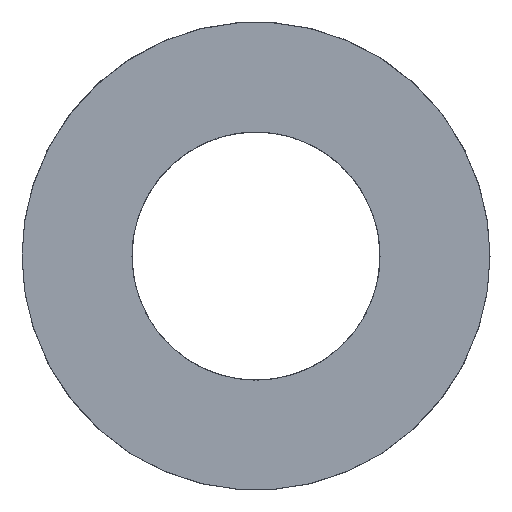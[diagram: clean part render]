
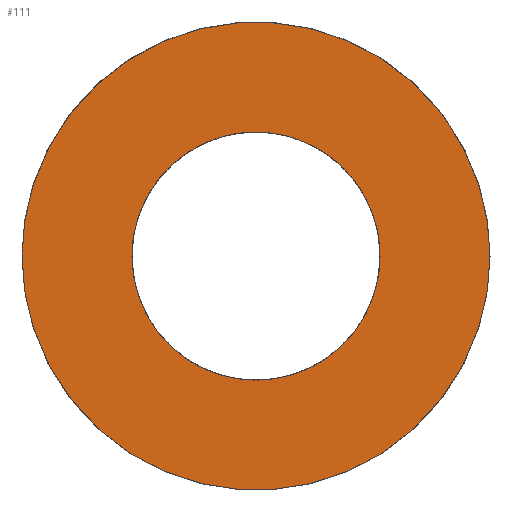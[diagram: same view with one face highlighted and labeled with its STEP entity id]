
A CAD part, left-side view. The second image highlights one B-rep face of the part: STEP entity #111.
In plain terms, the highlighted planar face has unit normal (-1, 0, 0).
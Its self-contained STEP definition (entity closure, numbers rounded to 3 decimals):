
#36=FACE_BOUND('',#125,.T.);
#38=PLANE('',#338);
#111=ADVANCED_FACE('',(#117,#36),#38,.T.);
#117=FACE_OUTER_BOUND('',#124,.T.);
#124=EDGE_LOOP('',(#141));
#125=EDGE_LOOP('',(#142));
#141=ORIENTED_EDGE('',*,*,#237,.T.);
#142=ORIENTED_EDGE('',*,*,#238,.T.);
#157=(
BOUNDED_CURVE()
B_SPLINE_CURVE(2,(#542,#543,#544,#545,#546,#547,#548,#549,#550),
 .UNSPECIFIED.,.T.,.F.)
B_SPLINE_CURVE_WITH_KNOTS((3,2,2,2,3),(0.,1.571,3.142,
4.712,6.283),.UNSPECIFIED.)
CURVE()
GEOMETRIC_REPRESENTATION_ITEM()
RATIONAL_B_SPLINE_CURVE((1.,0.707,1.,0.707,1.,0.707,
1.,0.707,1.))
REPRESENTATION_ITEM('')
);
#158=(
BOUNDED_CURVE()
B_SPLINE_CURVE(2,(#551,#552,#553,#554,#555,#556,#557,#558,#559),
 .UNSPECIFIED.,.T.,.F.)
B_SPLINE_CURVE_WITH_KNOTS((3,2,2,2,3),(0.,1.571,3.142,
4.712,6.283),.UNSPECIFIED.)
CURVE()
GEOMETRIC_REPRESENTATION_ITEM()
RATIONAL_B_SPLINE_CURVE((1.,0.707,1.,0.707,1.,0.707,
1.,0.707,1.))
REPRESENTATION_ITEM('')
);
#159=(
BOUNDED_CURVE()
B_SPLINE_CURVE(2,(#560,#561,#562,#563,#564,#565,#566,#567,#568),
 .UNSPECIFIED.,.T.,.F.)
B_SPLINE_CURVE_WITH_KNOTS((3,2,2,2,3),(3.142,4.712,
6.283,7.854,9.425),.UNSPECIFIED.)
CURVE()
GEOMETRIC_REPRESENTATION_ITEM()
RATIONAL_B_SPLINE_CURVE((1.,0.707,1.,0.707,1.,0.707,
1.,0.707,1.))
REPRESENTATION_ITEM('')
);
#160=(
BOUNDED_CURVE()
B_SPLINE_CURVE(2,(#569,#570,#571,#572,#573,#574,#575,#576,#577),
 .UNSPECIFIED.,.T.,.F.)
B_SPLINE_CURVE_WITH_KNOTS((3,2,2,2,3),(3.142,4.712,
6.283,7.854,9.425),.UNSPECIFIED.)
CURVE()
GEOMETRIC_REPRESENTATION_ITEM()
RATIONAL_B_SPLINE_CURVE((1.,0.707,1.,0.707,1.,0.707,
1.,0.707,1.))
REPRESENTATION_ITEM('')
);
#177=PCURVE('',#38,#197);
#178=PCURVE('',#38,#198);
#197=DEFINITIONAL_REPRESENTATION('',(#158),#629);
#198=DEFINITIONAL_REPRESENTATION('',(#160),#629);
#217=SURFACE_CURVE('',#157,(#177),.PCURVE_S1.);
#218=SURFACE_CURVE('',#159,(#178),.PCURVE_S1.);
#237=EDGE_CURVE('',#281,#281,#217,.T.);
#238=EDGE_CURVE('',#282,#282,#218,.T.);
#281=VERTEX_POINT('',#540);
#282=VERTEX_POINT('',#541);
#338=AXIS2_PLACEMENT_3D('',#539,#351,$);
#351=DIRECTION('',(-1.,0.,0.));
#539=CARTESIAN_POINT('',(-1.,-5.,5.));
#540=CARTESIAN_POINT('',(-1.,5.,0.));
#541=CARTESIAN_POINT('',(-1.,-2.65,0.));
#542=CARTESIAN_POINT('',(-1.,5.,0.));
#543=CARTESIAN_POINT('',(-1.,5.,-5.));
#544=CARTESIAN_POINT('',(-1.,0.,-5.));
#545=CARTESIAN_POINT('',(-1.,-5.,-5.));
#546=CARTESIAN_POINT('',(-1.,-5.,0.));
#547=CARTESIAN_POINT('',(-1.,-5.,5.));
#548=CARTESIAN_POINT('',(-1.,0.,5.));
#549=CARTESIAN_POINT('',(-1.,5.,5.));
#550=CARTESIAN_POINT('',(-1.,5.,0.));
#551=CARTESIAN_POINT('',(1.,0.5));
#552=CARTESIAN_POINT('',(1.,1.));
#553=CARTESIAN_POINT('',(0.5,1.));
#554=CARTESIAN_POINT('',(0.,1.));
#555=CARTESIAN_POINT('',(0.,0.5));
#556=CARTESIAN_POINT('',(0.,0.));
#557=CARTESIAN_POINT('',(0.5,0.));
#558=CARTESIAN_POINT('',(1.,0.));
#559=CARTESIAN_POINT('',(1.,0.5));
#560=CARTESIAN_POINT('',(-1.,-2.65,0.));
#561=CARTESIAN_POINT('',(-1.,-2.65,-2.65));
#562=CARTESIAN_POINT('',(-1.,0.,-2.65));
#563=CARTESIAN_POINT('',(-1.,2.65,-2.65));
#564=CARTESIAN_POINT('',(-1.,2.65,0.));
#565=CARTESIAN_POINT('',(-1.,2.65,2.65));
#566=CARTESIAN_POINT('',(-1.,0.,2.65));
#567=CARTESIAN_POINT('',(-1.,-2.65,2.65));
#568=CARTESIAN_POINT('',(-1.,-2.65,0.));
#569=CARTESIAN_POINT('',(0.235,0.5));
#570=CARTESIAN_POINT('',(0.235,0.765));
#571=CARTESIAN_POINT('',(0.5,0.765));
#572=CARTESIAN_POINT('',(0.765,0.765));
#573=CARTESIAN_POINT('',(0.765,0.5));
#574=CARTESIAN_POINT('',(0.765,0.235));
#575=CARTESIAN_POINT('',(0.5,0.235));
#576=CARTESIAN_POINT('',(0.235,0.235));
#577=CARTESIAN_POINT('',(0.235,0.5));
#629=(
GEOMETRIC_REPRESENTATION_CONTEXT(2)
PARAMETRIC_REPRESENTATION_CONTEXT()
REPRESENTATION_CONTEXT('pspace','')
);
